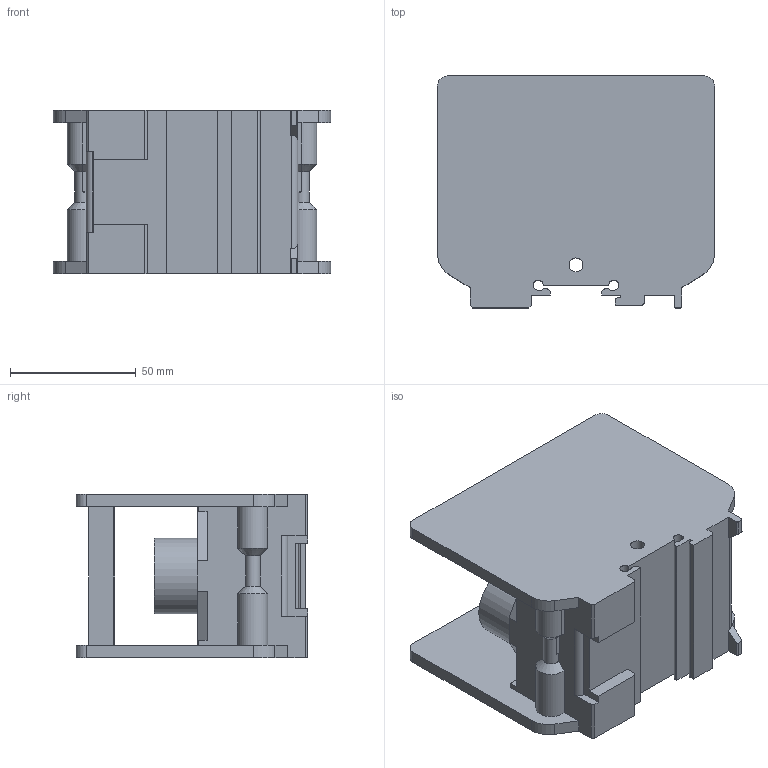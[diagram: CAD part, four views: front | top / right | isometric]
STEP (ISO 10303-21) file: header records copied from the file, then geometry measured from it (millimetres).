
FILE_DESCRIPTION(/* description */ (''),/* implementation_level */ '2;1');
FILE_NAME(/* name */ 'C:\Users\USERCADG105.FUJIDK\Desktop\2311320(TX-325F)HP 3D.stp',/* time_stamp */ '2024-12-06T16:52:09+09:00',/* author */ ('usercadg105'),/* organization */ (''),/* preprocessor_version */ 'ST-DEVELOPER v19',/* originating_system */ 'Autodesk Inventor 2023',/* authorisation */ '');
FILE_SCHEMA (('CONFIG_CONTROL_DESIGN'));
Length unit declared in the file: millimetre
Products named in the file (1): 2311320(TX-325F)HP 3D
Bounding box: 110 x 92 x 65 mm (x, y, z)
Volume: 313307.3 mm3; surface area: 59648.7 mm2
Topology: 1 solids, 1 shells, 121 faces, 350 edges, 231 vertices
Faces by surface type: plane 88, cylinder 29, cone 4
Full cylindrical faces by diameter (mm): 5.5 x1, 30 x2
Entity records: 4115 total; most frequent: CARTESIAN_POINT 715, ORIENTED_EDGE 700, DIRECTION 649, EDGE_CURVE 350, LINE 283, VECTOR 283, VERTEX_POINT 231, AXIS2_PLACEMENT_3D 183
